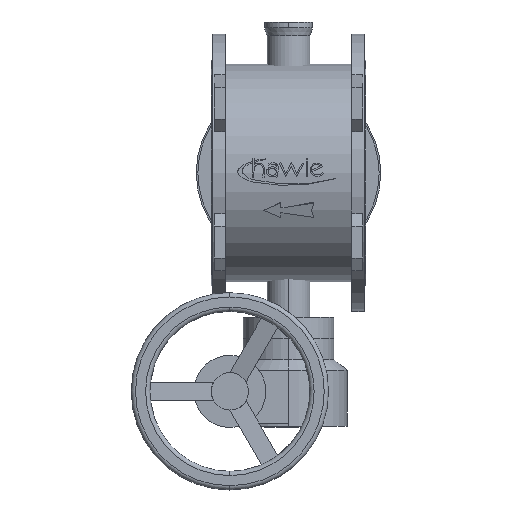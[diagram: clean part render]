
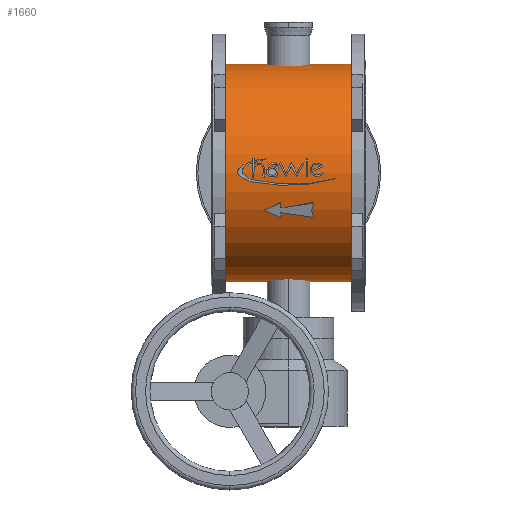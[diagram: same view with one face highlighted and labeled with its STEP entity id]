
A CAD part, top view. The second image highlights one B-rep face of the part: STEP entity #1660.
In plain terms, the highlighted cylindrical face has radius 204 mm (diameter 408 mm), a partial arc.
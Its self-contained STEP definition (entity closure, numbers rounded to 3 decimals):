
#1660=ADVANCED_FACE('',(#3154),#3155,.T.);
#3154=FACE_OUTER_BOUND('',#4798,.T.);
#3155=CYLINDRICAL_SURFACE('',#4799,204.0);
#4798=EDGE_LOOP('',(#7952,#7953,#7954,#7955));
#4799=AXIS2_PLACEMENT_3D('',#7956,#7957,#7958);
#7952=ORIENTED_EDGE('',*,*,#9643,.T.);
#7953=ORIENTED_EDGE('',*,*,#9395,.T.);
#7954=ORIENTED_EDGE('',*,*,#9644,.T.);
#7955=ORIENTED_EDGE('',*,*,#9612,.T.);
#7956=CARTESIAN_POINT('',(-263.5,0.,0.0));
#7957=DIRECTION('',(1.0,0.,0.0));
#7958=DIRECTION('',(0.,-1.0,0.0));
#9395=EDGE_CURVE('',#11265,#11266,#11267,.T.);
#9612=EDGE_CURVE('',#11552,#11551,#11554,.T.);
#9643=EDGE_CURVE('',#11551,#11265,#11597,.T.);
#9644=EDGE_CURVE('',#11266,#11552,#11598,.T.);
#11265=VERTEX_POINT('',#13612);
#11266=VERTEX_POINT('',#13613);
#11267=CIRCLE('',#13614,204.0);
#11551=VERTEX_POINT('',#13966);
#11552=VERTEX_POINT('',#13967);
#11554=CIRCLE('',#13969,204.0);
#11597=LINE('',#14017,#14018);
#11598=LINE('',#14019,#14020);
#13612=CARTESIAN_POINT('',(-24.5,-204.0,0.0));
#13613=CARTESIAN_POINT('',(-24.5,204.0,0.));
#13614=AXIS2_PLACEMENT_3D('',#15681,#15682,#15683);
#13966=CARTESIAN_POINT('',(-263.5,-204.0,0.0));
#13967=CARTESIAN_POINT('',(-263.5,204.0,0.));
#13969=AXIS2_PLACEMENT_3D('',#15962,#15963,#15964);
#14017=CARTESIAN_POINT('',(-263.5,-204.0,0.));
#14018=VECTOR('',#16024,1.0);
#14019=CARTESIAN_POINT('',(-263.5,204.0,0.));
#14020=VECTOR('',#16025,1.0);
#15681=CARTESIAN_POINT('',(-24.5,0.,0.0));
#15682=DIRECTION('',(-1.0,0.,0.0));
#15683=DIRECTION('',(0.,-1.0,0.0));
#15962=CARTESIAN_POINT('',(-263.5,0.,0.0));
#15963=DIRECTION('',(1.0,0.,0.0));
#15964=DIRECTION('',(0.,-1.0,0.0));
#16024=DIRECTION('',(1.0,0.,0.0));
#16025=DIRECTION('',(-1.0,0.,-0.0));
